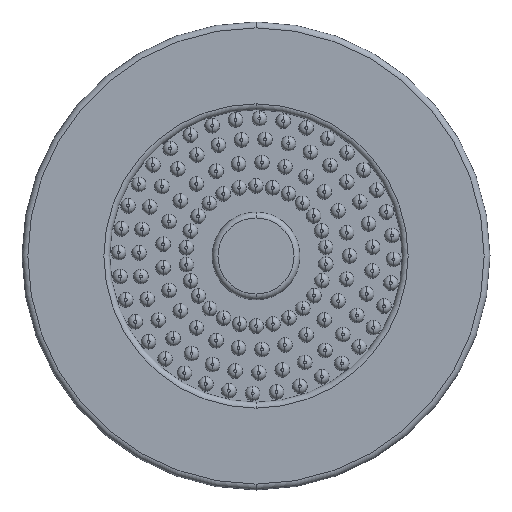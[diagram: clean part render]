
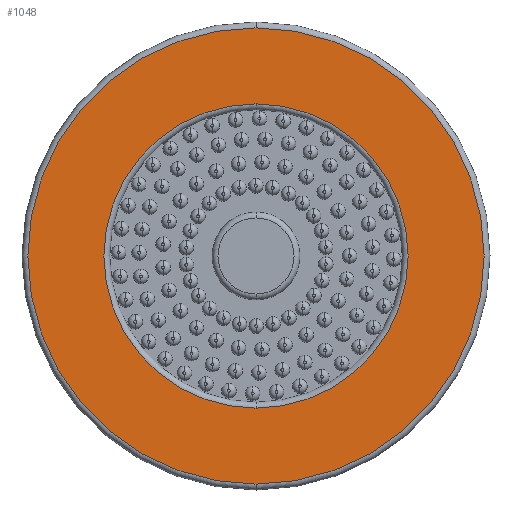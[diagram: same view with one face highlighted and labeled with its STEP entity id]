
A CAD part, front view. The second image highlights one B-rep face of the part: STEP entity #1048.
In plain terms, the highlighted planar face has unit normal (0, -1, 0).
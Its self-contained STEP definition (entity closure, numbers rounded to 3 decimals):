
#72 = AXIS2_PLACEMENT_3D ( 'NONE', #9572, #4636, #6269 ) ;
#278 = ORIENTED_EDGE ( 'NONE', *, *, #7675, .T. ) ;
#638 = CIRCLE ( 'NONE', #6570, 26. ) ;
#1048 = ADVANCED_FACE ( 'NONE', ( #4580, #3847 ), #10365, .F. ) ;
#1459 = CARTESIAN_POINT ( 'NONE',  ( 0., 0., 39. ) ) ;
#1607 = DIRECTION ( 'NONE',  ( 0., 0., 1. ) ) ;
#2506 = ORIENTED_EDGE ( 'NONE', *, *, #5662, .T. ) ;
#2614 = AXIS2_PLACEMENT_3D ( 'NONE', #7984, #9456, #5516 ) ;
#3328 = EDGE_CURVE ( 'NONE', #7062, #5116, #7525, .T. ) ;
#3661 = CARTESIAN_POINT ( 'NONE',  ( 0., 0., 0. ) ) ;
#3847 = FACE_OUTER_BOUND ( 'NONE', #7651, .T. ) ;
#3926 = ORIENTED_EDGE ( 'NONE', *, *, #3328, .T. ) ;
#4265 = ORIENTED_EDGE ( 'NONE', *, *, #8659, .T. ) ;
#4580 = FACE_BOUND ( 'NONE', #5038, .T. ) ;
#4636 = DIRECTION ( 'NONE',  ( 0., 1., 0. ) ) ;
#5038 = EDGE_LOOP ( 'NONE', ( #278, #4265 ) ) ;
#5116 = VERTEX_POINT ( 'NONE', #5355 ) ;
#5147 = CARTESIAN_POINT ( 'NONE',  ( 0., 0., 26. ) ) ;
#5355 = CARTESIAN_POINT ( 'NONE',  ( 0., 0., -39. ) ) ;
#5472 = CIRCLE ( 'NONE', #9550, 39. ) ;
#5516 = DIRECTION ( 'NONE',  ( 0., 0., 1. ) ) ;
#5545 = AXIS2_PLACEMENT_3D ( 'NONE', #3661, #6798, #10022 ) ;
#5662 = EDGE_CURVE ( 'NONE', #5116, #7062, #5472, .T. ) ;
#6269 = DIRECTION ( 'NONE',  ( 0., 0., 1. ) ) ;
#6500 = CARTESIAN_POINT ( 'NONE',  ( 0., 0., 0. ) ) ;
#6570 = AXIS2_PLACEMENT_3D ( 'NONE', #8880, #10506, #1607 ) ;
#6798 = DIRECTION ( 'NONE',  ( 0., 1., 0. ) ) ;
#6860 = VERTEX_POINT ( 'NONE', #9735 ) ;
#7062 = VERTEX_POINT ( 'NONE', #1459 ) ;
#7354 = VERTEX_POINT ( 'NONE', #5147 ) ;
#7355 = DIRECTION ( 'NONE',  ( 0., -1., 0. ) ) ;
#7525 = CIRCLE ( 'NONE', #2614, 39. ) ;
#7651 = EDGE_LOOP ( 'NONE', ( #3926, #2506 ) ) ;
#7675 = EDGE_CURVE ( 'NONE', #7354, #6860, #9790, .T. ) ;
#7984 = CARTESIAN_POINT ( 'NONE',  ( 0., 0., 0. ) ) ;
#8659 = EDGE_CURVE ( 'NONE', #6860, #7354, #638, .T. ) ;
#8880 = CARTESIAN_POINT ( 'NONE',  ( 0., 0., 0. ) ) ;
#9456 = DIRECTION ( 'NONE',  ( 0., -1., 0. ) ) ;
#9550 = AXIS2_PLACEMENT_3D ( 'NONE', #6500, #7355, #9787 ) ;
#9572 = CARTESIAN_POINT ( 'NONE',  ( 0., 0., 0. ) ) ;
#9735 = CARTESIAN_POINT ( 'NONE',  ( 0., 0., -26. ) ) ;
#9787 = DIRECTION ( 'NONE',  ( 0., 0., 1. ) ) ;
#9790 = CIRCLE ( 'NONE', #5545, 26. ) ;
#10022 = DIRECTION ( 'NONE',  ( 0., 0., 1. ) ) ;
#10365 = PLANE ( 'NONE',  #72 ) ;
#10506 = DIRECTION ( 'NONE',  ( 0., 1., 0. ) ) ;
